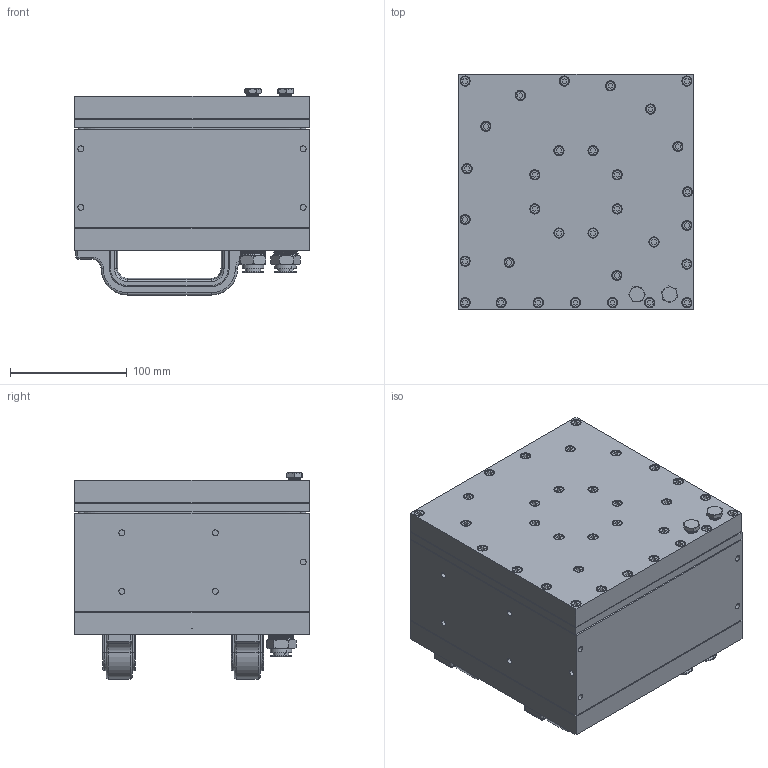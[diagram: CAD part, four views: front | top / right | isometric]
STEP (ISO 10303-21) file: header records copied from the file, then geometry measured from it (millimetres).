
FILE_DESCRIPTION (( 'STEP AP214' ), '1' );
FILE_NAME ('BD-50-KCSS_defeature.STEP', '2019-02-04T15:15:16', ( '' ), ( '' ), 'SwSTEP 2.0', 'SolidWorks 2018', '' );
FILE_SCHEMA (( 'AUTOMOTIVE_DESIGN' ));
Length unit declared in the file: inch
Products named in the file (2): BD-50-KCSS_defeature
Bounding box: 200.66 x 200.66 x 176.17 mm (x, y, z)
Volume: 5084092.5 mm3; surface area: 497631.1 mm2
Topology: 1 solids, 1 shells, 2110 faces, 5080 edges, 3201 vertices
Faces by surface type: cylinder 896, plane 733, torus 284, cone 156, bspline 33, sphere 8
Entity records: 102392 total; most frequent: CARTESIAN_POINT 52131, DIRECTION 10939, ORIENTED_EDGE 10144, EDGE_CURVE 5072, AXIS2_PLACEMENT_3D 4270, VERTEX_POINT 3201, EDGE_LOOP 2523, LINE 2399
